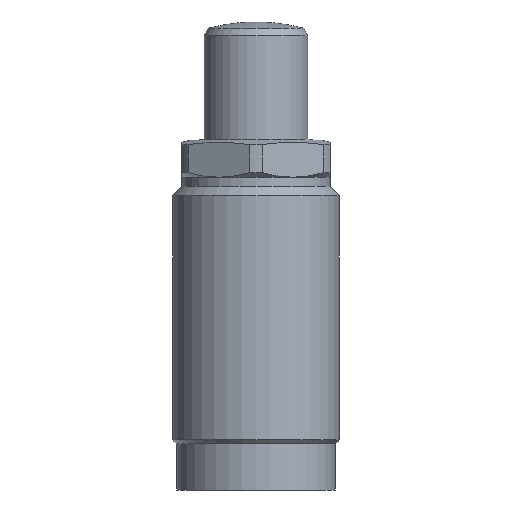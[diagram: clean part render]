
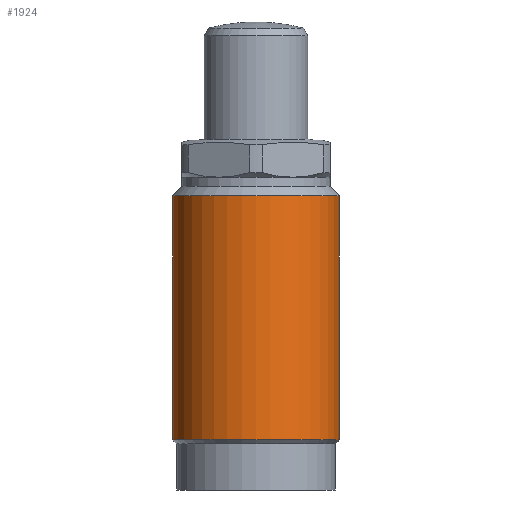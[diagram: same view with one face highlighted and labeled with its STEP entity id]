
A CAD part, front view. The second image highlights one B-rep face of the part: STEP entity #1924.
In plain terms, the highlighted cylindrical face has radius 18 mm (diameter 36 mm), a partial arc.
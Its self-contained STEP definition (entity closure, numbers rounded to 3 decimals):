
#445 = AXIS2_PLACEMENT_3D ( 'NONE', #1057, #1054, #1060 ) ;
#452 = CIRCLE ( 'NONE', #478, 18. ) ;
#477 = CIRCLE ( 'NONE', #480, 18. ) ;
#478 = AXIS2_PLACEMENT_3D ( 'NONE', #1148, #1149, #1150 ) ;
#480 = AXIS2_PLACEMENT_3D ( 'NONE', #1152, #1153, #1154 ) ;
#554 = VECTOR ( 'NONE', #881, 1000. ) ;
#560 = VECTOR ( 'NONE', #884, 1000. ) ;
#871 = CARTESIAN_POINT ( 'NONE',  ( -18., 0., 4.451 ) ) ;
#877 = LINE ( 'NONE', #871, #554 ) ;
#881 = DIRECTION ( 'NONE',  ( 0., 0., 1. ) ) ;
#882 = LINE ( 'NONE', #883, #560 ) ;
#883 = CARTESIAN_POINT ( 'NONE',  ( 18., 0., 4.451 ) ) ;
#884 = DIRECTION ( 'NONE',  ( 0., 0., 1. ) ) ;
#1054 = DIRECTION ( 'NONE',  ( 0., 0., 1. ) ) ;
#1056 = FACE_OUTER_BOUND ( 'NONE', #1670, .T. ) ;
#1057 = CARTESIAN_POINT ( 'NONE',  ( 0., 0., 4.451 ) ) ;
#1059 = CYLINDRICAL_SURFACE ( 'NONE', #445, 18. ) ;
#1060 = DIRECTION ( 'NONE',  ( 1., 0., 0. ) ) ;
#1148 = CARTESIAN_POINT ( 'NONE',  ( 0., 0., -64.65 ) ) ;
#1149 = DIRECTION ( 'NONE',  ( 0., 0., 1. ) ) ;
#1150 = DIRECTION ( 'NONE',  ( 1., 0., 0. ) ) ;
#1152 = CARTESIAN_POINT ( 'NONE',  ( 0., 0., -12. ) ) ;
#1153 = DIRECTION ( 'NONE',  ( 0., 0., 1. ) ) ;
#1154 = DIRECTION ( 'NONE',  ( 1., 0., 0. ) ) ;
#1477 = CARTESIAN_POINT ( 'NONE',  ( 18., 0., -64.65 ) ) ;
#1479 = CARTESIAN_POINT ( 'NONE',  ( -18., 0., -64.65 ) ) ;
#1480 = CARTESIAN_POINT ( 'NONE',  ( 18., 0., -12. ) ) ;
#1481 = CARTESIAN_POINT ( 'NONE',  ( -18., 0., -12. ) ) ;
#1670 = EDGE_LOOP ( 'NONE', ( #2056, #2073, #1981, #1972 ) ) ;
#1730 = VERTEX_POINT ( 'NONE', #1477 ) ;
#1732 = VERTEX_POINT ( 'NONE', #1479 ) ;
#1733 = VERTEX_POINT ( 'NONE', #1480 ) ;
#1734 = VERTEX_POINT ( 'NONE', #1481 ) ;
#1924 = ADVANCED_FACE ( 'NONE', ( #1056 ), #1059, .T. ) ;
#1950 = EDGE_CURVE ( 'NONE', #1732, #1730, #452, .T. ) ;
#1952 = EDGE_CURVE ( 'NONE', #1734, #1733, #477, .T. ) ;
#1972 = ORIENTED_EDGE ( 'NONE', *, *, #1952, .F. ) ;
#1981 = ORIENTED_EDGE ( 'NONE', *, *, #2232, .T. ) ;
#2056 = ORIENTED_EDGE ( 'NONE', *, *, #2231, .F. ) ;
#2073 = ORIENTED_EDGE ( 'NONE', *, *, #1950, .T. ) ;
#2231 = EDGE_CURVE ( 'NONE', #1732, #1734, #877, .T. ) ;
#2232 = EDGE_CURVE ( 'NONE', #1730, #1733, #882, .T. ) ;
